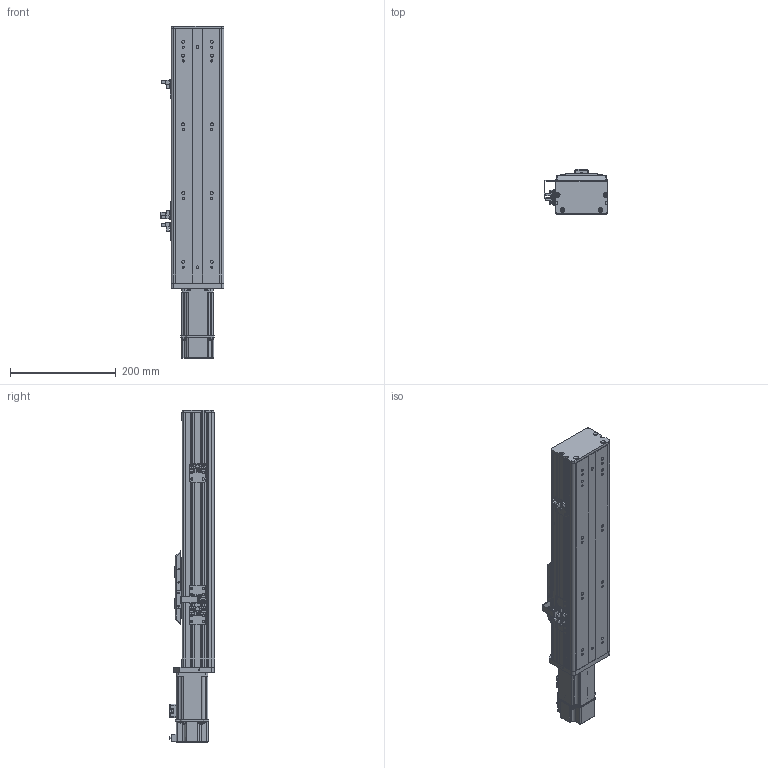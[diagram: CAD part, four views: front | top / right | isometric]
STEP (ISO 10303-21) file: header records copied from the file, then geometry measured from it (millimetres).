
FILE_DESCRIPTION (( 'STEP AP203' ), '1' );
FILE_NAME ('BOSW100-250-1610-1P-CM-M400W-O-S3（方程式2016）.step', '2020-10-10T06:30:48', ( '' ), ( '' ), 'SwSTEP 2.0', 'SolidWorks 2016', '' );
FILE_SCHEMA (( 'CONFIG_CONTROL_DESIGN' ));
Length unit declared in the file: millimetre
Products named in the file (13): BOSW&TW-100-詩湍揤沭(陔賦凳); BOSW-100-1P-CM-宽轨-钢带-250客户图纸; 俋境嫖覜嘐隅啣; BOSW-100-1P-CM-宽轨-侧板-250客户图纸; BOSW-100-CM-宽轨-三菱M200W&400W马达板(新结构); BOSW-100-1P-CM-250諦誧芞; BOSW100-250-1610-1P-CM-M400W-O-S3（方程式2016）; BOSW&TW-100-1P-賑雄釱欶; 放大器内置U型微型光电传感器PM-L65; BOSW&TW-100-俋离覜茼え; S400W(SMA-L040); BOSW-100-綴裔啣; 新结构AIMSW-100-1P-宽&高轨共用-滑动座上组件
Assembly tree (18 placements, depth 2):
  BOSW100-250-1610-1P-CM-M400W-O-S3（方程式2016）
    BOSW-100-1P-CM-250諦誧芞
    BOSW-100-綴裔啣
    新结构AIMSW-100-1P-宽&高轨共用-滑动座上组件
    S400W(SMA-L040)
    BOSW&TW-100-詩湍揤沭(陔賦凳)  x2
    BOSW&TW-100-1P-賑雄釱欶
    BOSW&TW-100-俋离覜茼え
    俋境嫖覜嘐隅啣  x3
    放大器内置U型微型光电传感器PM-L65  x3
    BOSW-100-CM-宽轨-三菱M200W&400W马达板(新结构)
    BOSW-100-1P-CM-宽轨-侧板-250客户图纸  x2
    BOSW-100-1P-CM-宽轨-钢带-250客户图纸
Bounding box: 120.9 x 85.5 x 627.8 mm (x, y, z)
Volume: 1269181.1 mm3; surface area: 583673.8 mm2
Topology: 18 solids, 18 shells, 2481 faces, 6534 edges, 4165 vertices
Faces by surface type: plane 1220, cylinder 777, bspline 271, cone 165, torus 36, sphere 12
Entity records: 67584 total; most frequent: CARTESIAN_POINT 20420, ORIENTED_EDGE 9608, DIRECTION 9314, EDGE_CURVE 4804, AXIS2_PLACEMENT_3D 3308, VERTEX_POINT 3067, VECTOR 2698, LINE 2698
